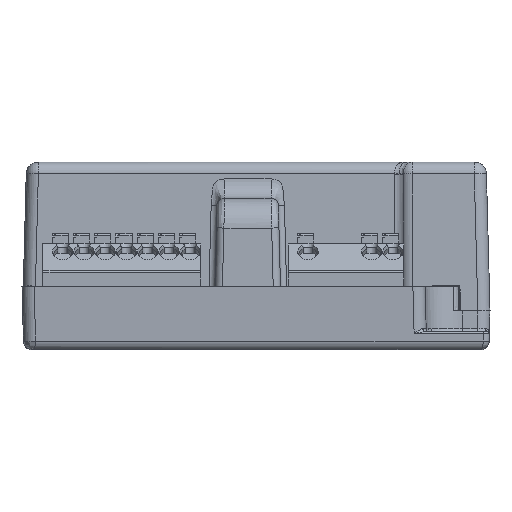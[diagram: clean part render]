
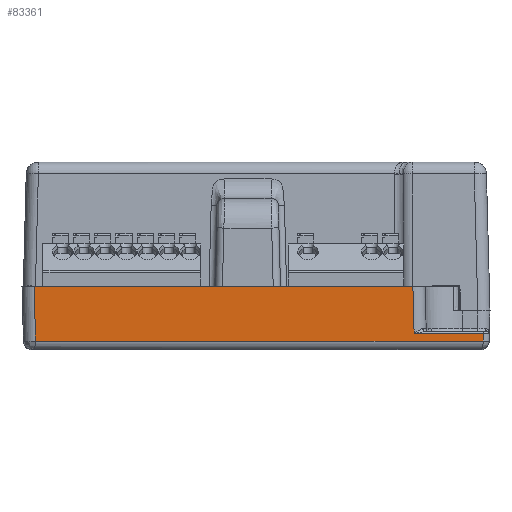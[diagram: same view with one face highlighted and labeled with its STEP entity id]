
A CAD part, left-side view. The second image highlights one B-rep face of the part: STEP entity #83361.
In plain terms, the highlighted planar face has unit normal (-1, 0, -0.026).
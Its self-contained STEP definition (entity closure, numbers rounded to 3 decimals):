
#2456=DIRECTION('',(0.,-1.,0.));
#2457=VECTOR('',#2456,73.74);
#2458=CARTESIAN_POINT('',(-6.869,69.87,1.461));
#2459=LINE('',#2458,#2457);
#2460=CARTESIAN_POINT('',(-6.869,69.87,1.461));
#2709=DIRECTION('',(0.,1.,0.));
#2710=VECTOR('',#2709,62.401);
#2711=CARTESIAN_POINT('',(-7.105,7.705,10.45));
#2712=LINE('',#2711,#2710);
#23043=CARTESIAN_POINT('',(-6.902,-3.902,
2.692));
#23084=CARTESIAN_POINT('',(-6.902,7.504,
2.692));
#24514=DIRECTION('',(0.,-1.,0.));
#24515=VECTOR('',#24514,11.406);
#24516=CARTESIAN_POINT('',(-6.902,7.504,
2.692));
#24517=LINE('',#24516,#24515);
#24518=DIRECTION('',(0.026,0.026,-0.999));
#24519=VECTOR('',#24518,1.232);
#24520=CARTESIAN_POINT('',(-6.902,-3.902,
2.692));
#24521=LINE('',#24520,#24519);
#24522=DIRECTION('',(-0.026,0.026,0.999));
#24523=VECTOR('',#24522,8.995);
#24524=CARTESIAN_POINT('',(-6.869,69.87,
1.461));
#24525=LINE('',#24524,#24523);
#24526=DIRECTION('',(0.026,-0.026,-0.999));
#24527=VECTOR('',#24526,6.942);
#24528=CARTESIAN_POINT('',(-7.105,7.705,
10.45));
#24529=LINE('',#24528,#24527);
#24530=DIRECTION('',(0.026,-0.026,-0.999));
#24531=VECTOR('',#24530,0.822);
#24532=CARTESIAN_POINT('',(-6.923,7.525,
3.513));
#24533=LINE('',#24532,#24531);
#42120=VERTEX_POINT('',#23043);
#42123=CARTESIAN_POINT('',(-6.869,-3.87,
1.461));
#42124=VERTEX_POINT('',#42123);
#42128=VERTEX_POINT('',#2460);
#42351=VERTEX_POINT('',#23084);
#42352=CARTESIAN_POINT('',(-6.923,7.525,
3.513));
#42353=VERTEX_POINT('',#42352);
#42354=CARTESIAN_POINT('',(-7.105,7.705,
10.45));
#42355=VERTEX_POINT('',#42354);
#42357=CARTESIAN_POINT('',(-7.105,70.105,
10.45));
#42358=VERTEX_POINT('',#42357);
#83347=CARTESIAN_POINT('',(-7.,-5.,6.45));
#83348=DIRECTION('',(-1.,0.,-0.026));
#83349=DIRECTION('',(0.026,0.,-1.));
#83350=AXIS2_PLACEMENT_3D('',#83347,#83348,#83349);
#83351=PLANE('',#83350);
#83352=ORIENTED_EDGE('',*,*,#80548,.T.);
#83353=ORIENTED_EDGE('',*,*,#80518,.T.);
#83354=ORIENTED_EDGE('',*,*,#54084,.F.);
#83355=ORIENTED_EDGE('',*,*,#54234,.T.);
#83356=ORIENTED_EDGE('',*,*,#54290,.F.);
#83357=ORIENTED_EDGE('',*,*,#80628,.T.);
#83358=ORIENTED_EDGE('',*,*,#80626,.T.);
#83359=EDGE_LOOP('',(#83352,#83353,#83354,#83355,#83356,#83357,#83358));
#83360=FACE_OUTER_BOUND('',#83359,.F.);
#83361=ADVANCED_FACE('',(#83360),#83351,.T.);
#54084=EDGE_CURVE('',#42128,#42124,#2459,.T.);
#54234=EDGE_CURVE('',#42128,#42358,#24525,.T.);
#54290=EDGE_CURVE('',#42355,#42358,#2712,.T.);
#80518=EDGE_CURVE('',#42120,#42124,#24521,.T.);
#80548=EDGE_CURVE('',#42351,#42120,#24517,.T.);
#80626=EDGE_CURVE('',#42353,#42351,#24533,.T.);
#80628=EDGE_CURVE('',#42355,#42353,#24529,.T.);
